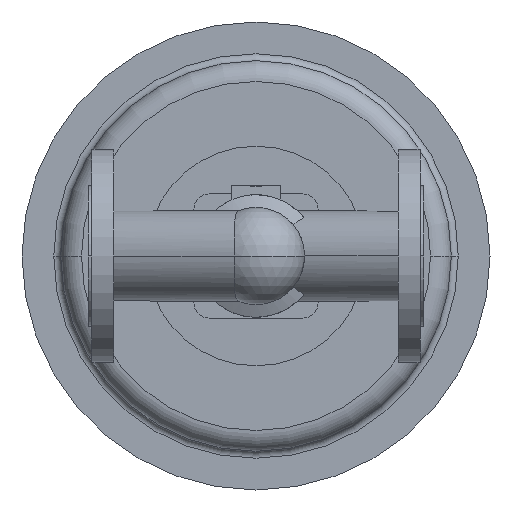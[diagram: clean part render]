
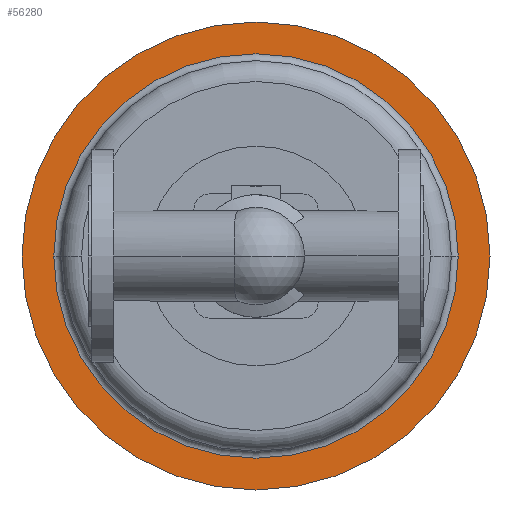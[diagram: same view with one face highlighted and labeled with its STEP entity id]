
A CAD part, front view. The second image highlights one B-rep face of the part: STEP entity #56280.
In plain terms, the highlighted planar face has unit normal (0, -1, 0).
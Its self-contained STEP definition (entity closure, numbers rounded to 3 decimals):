
#55690=CARTESIAN_POINT('',(145.,777.5,0.));
#55700=DIRECTION('',(0.,1.,0.));
#55710=DIRECTION('',(1.,0.,0.));
#55720=AXIS2_PLACEMENT_3D('',#55690,#55700,#55710);
#55730=CIRCLE('',#55720,175.);
#55740=CARTESIAN_POINT('',(145.,777.5,175.));
#55750=VERTEX_POINT('',#55740);
#55760=CARTESIAN_POINT('',(320.,777.5,0.));
#55770=VERTEX_POINT('',#55760);
#55780=EDGE_CURVE('',#55750,#55770,#55730,.T.);
#55930=CARTESIAN_POINT('',(-30.,777.5,0.));
#55940=VERTEX_POINT('',#55930);
#55970=EDGE_CURVE('',#55940,#55750,#55730,.T.);
#56020=CARTESIAN_POINT('',(333.75,777.5,0.));
#56030=DIRECTION('',(0.,-1.,0.));
#56040=DIRECTION('',(-1.,0.,0.));
#56050=AXIS2_PLACEMENT_3D('',#56020,#56030,#56040);
#56060=PLANE('',#56050);
#56070=CARTESIAN_POINT('',(145.,777.5,0.));
#56080=DIRECTION('',(0.,1.,0.));
#56090=DIRECTION('',(1.,0.,0.));
#56100=AXIS2_PLACEMENT_3D('',#56070,#56080,#56090);
#56110=CIRCLE('',#56100,202.5);
#56120=CARTESIAN_POINT('',(347.5,777.5,0.));
#56130=VERTEX_POINT('',#56120);
#56140=CARTESIAN_POINT('',(-57.5,777.5,0.));
#56150=VERTEX_POINT('',#56140);
#56160=EDGE_CURVE('',#56130,#56150,#56110,.T.);
#56170=ORIENTED_EDGE('',*,*,#56160,.F.);
#56180=EDGE_CURVE('',#56150,#56130,#56110,.T.);
#56190=ORIENTED_EDGE('',*,*,#56180,.F.);
#56200=EDGE_LOOP('',(#56190,#56170));
#56210=FACE_OUTER_BOUND('',#56200,.T.);
#56220=EDGE_CURVE('',#55770,#55940,#55730,.T.);
#56230=ORIENTED_EDGE('',*,*,#56220,.T.);
#56240=ORIENTED_EDGE('',*,*,#55780,.T.);
#56250=ORIENTED_EDGE('',*,*,#55970,.T.);
#56260=EDGE_LOOP('',(#56250,#56240,#56230));
#56270=FACE_BOUND('',#56260,.T.);
#56280=ADVANCED_FACE('',(#56210,#56270),#56060,.T.);
